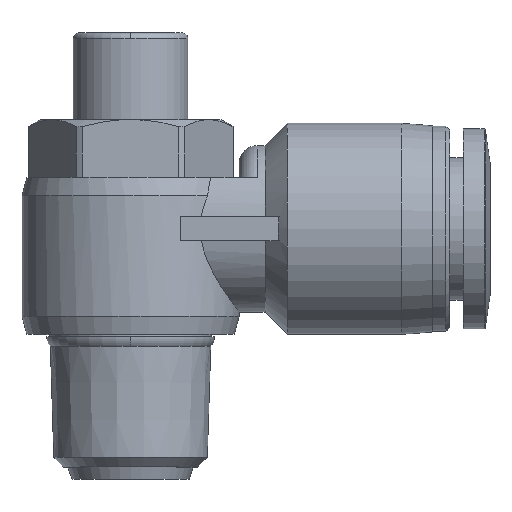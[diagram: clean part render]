
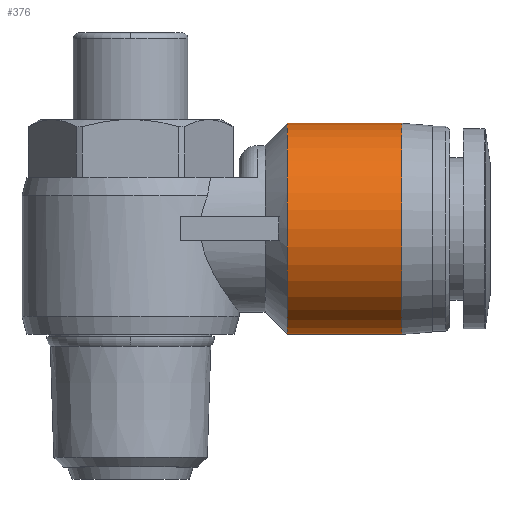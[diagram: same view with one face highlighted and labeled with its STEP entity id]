
A CAD part, top view. The second image highlights one B-rep face of the part: STEP entity #376.
In plain terms, the highlighted cylindrical face has radius 8.75 mm (diameter 17.5 mm), a partial arc.
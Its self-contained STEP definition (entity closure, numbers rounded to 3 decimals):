
#166 = LINE ( 'NONE', #857, #2296 ) ;
#272 = DIRECTION ( 'NONE',  ( -1., 0., 0. ) ) ;
#304 = VERTEX_POINT ( 'NONE', #2800 ) ;
#376 = ADVANCED_FACE ( 'NONE', ( #650 ), #1264, .T. ) ;
#399 = CIRCLE ( 'NONE', #3285, 8.75 ) ;
#425 = EDGE_CURVE ( 'NONE', #4055, #2179, #2759, .T. ) ;
#650 = FACE_OUTER_BOUND ( 'NONE', #2657, .T. ) ;
#739 = ORIENTED_EDGE ( 'NONE', *, *, #3488, .F. ) ;
#857 = CARTESIAN_POINT ( 'NONE',  ( 17.75, 28.5, 0. ) ) ;
#966 = LINE ( 'NONE', #2208, #3077 ) ;
#980 = ORIENTED_EDGE ( 'NONE', *, *, #425, .F. ) ;
#988 = DIRECTION ( 'NONE',  ( -1., 0., 0. ) ) ;
#1039 = DIRECTION ( 'NONE',  ( -1., 0., 0. ) ) ;
#1264 = CYLINDRICAL_SURFACE ( 'NONE', #4007, 8.75 ) ;
#1324 = CARTESIAN_POINT ( 'NONE',  ( 13., 19.75, 0. ) ) ;
#1513 = DIRECTION ( 'NONE',  ( 0., -1., 0. ) ) ;
#1737 = CARTESIAN_POINT ( 'NONE',  ( 22.5, 11., 0. ) ) ;
#2067 = EDGE_CURVE ( 'NONE', #2604, #304, #399, .T. ) ;
#2179 = VERTEX_POINT ( 'NONE', #3975 ) ;
#2208 = CARTESIAN_POINT ( 'NONE',  ( 17.75, 11., 0. ) ) ;
#2296 = VECTOR ( 'NONE', #4008, 1000. ) ;
#2308 = DIRECTION ( 'NONE',  ( 0., -1., 0. ) ) ;
#2551 = ORIENTED_EDGE ( 'NONE', *, *, #2573, .T. ) ;
#2573 = EDGE_CURVE ( 'NONE', #304, #2179, #166, .T. ) ;
#2604 = VERTEX_POINT ( 'NONE', #1737 ) ;
#2657 = EDGE_LOOP ( 'NONE', ( #2945, #2551, #980, #739 ) ) ;
#2759 = CIRCLE ( 'NONE', #3881, 8.75 ) ;
#2800 = CARTESIAN_POINT ( 'NONE',  ( 22.5, 28.5, 0. ) ) ;
#2810 = CARTESIAN_POINT ( 'NONE',  ( 13., 11., 0. ) ) ;
#2874 = DIRECTION ( 'NONE',  ( 0., -1., 0. ) ) ;
#2945 = ORIENTED_EDGE ( 'NONE', *, *, #2067, .T. ) ;
#3077 = VECTOR ( 'NONE', #988, 1000. ) ;
#3285 = AXIS2_PLACEMENT_3D ( 'NONE', #3875, #1039, #2308 ) ;
#3434 = CARTESIAN_POINT ( 'NONE',  ( 17.75, 19.75, 0. ) ) ;
#3488 = EDGE_CURVE ( 'NONE', #2604, #4055, #966, .T. ) ;
#3804 = DIRECTION ( 'NONE',  ( -1., 0., 0. ) ) ;
#3875 = CARTESIAN_POINT ( 'NONE',  ( 22.5, 19.75, 0. ) ) ;
#3881 = AXIS2_PLACEMENT_3D ( 'NONE', #1324, #3804, #2874 ) ;
#3975 = CARTESIAN_POINT ( 'NONE',  ( 13., 28.5, 0. ) ) ;
#4007 = AXIS2_PLACEMENT_3D ( 'NONE', #3434, #272, #1513 ) ;
#4008 = DIRECTION ( 'NONE',  ( -1., 0., 0. ) ) ;
#4055 = VERTEX_POINT ( 'NONE', #2810 ) ;
